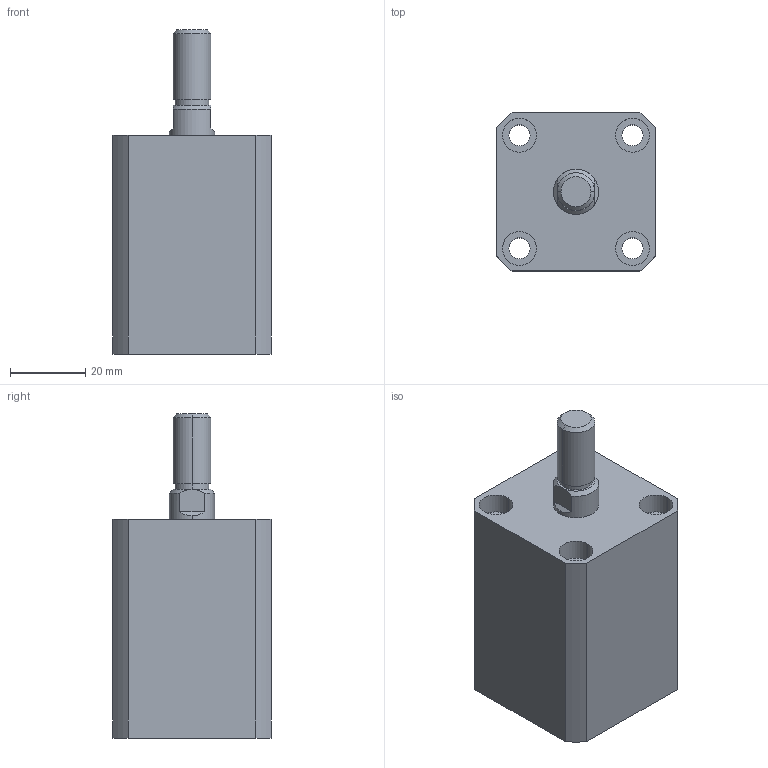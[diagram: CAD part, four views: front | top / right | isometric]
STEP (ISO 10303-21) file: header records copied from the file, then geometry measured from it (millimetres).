
FILE_DESCRIPTION (( 'STEP AP203' ), '1' );
FILE_NAME ('HTB-SDMB20-15W.STEP', '2019-10-08T11:54:23', ( '微软用户' ), ( '微软中国' ), 'SwSTEP 2.0', 'SolidWorks 2012', '' );
FILE_SCHEMA (( 'CONFIG_CONTROL_DESIGN' ));
Length unit declared in the file: millimetre
Products named in the file (3): HTB-SDMB20-15掛极; HTB-SDMB20-15W活塞杆; HTB-SDMB20-15W
Assembly tree (2 placements, depth 2):
  HTB-SDMB20-15W
    HTB-SDMB20-15掛极
    HTB-SDMB20-15W活塞杆
Bounding box: 42 x 42 x 86 mm (x, y, z)
Volume: 92224.7 mm3; surface area: 24029.1 mm2
Topology: 2 solids, 2 shells, 140 faces, 332 edges, 218 vertices
Faces by surface type: plane 66, cylinder 48, bspline 16, torus 6, cone 4
Entity records: 5129 total; most frequent: CARTESIAN_POINT 1587, ORIENTED_EDGE 664, DIRECTION 662, EDGE_CURVE 332, AXIS2_PLACEMENT_3D 241, VERTEX_POINT 218, LINE 180, VECTOR 180
